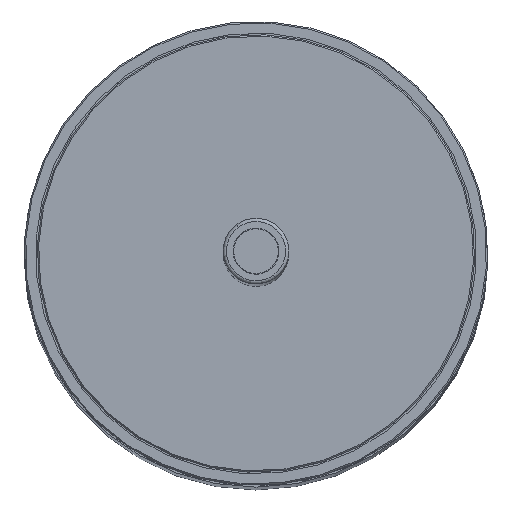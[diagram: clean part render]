
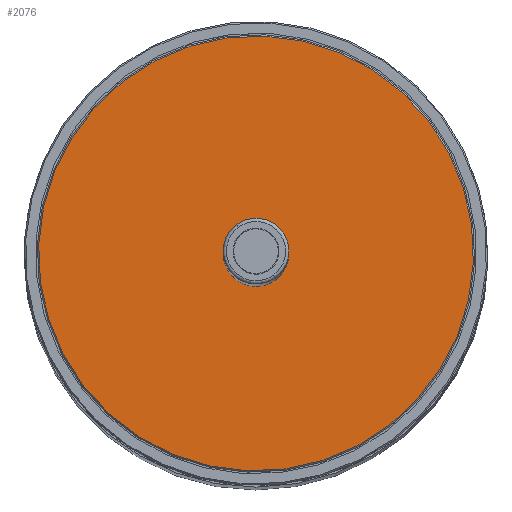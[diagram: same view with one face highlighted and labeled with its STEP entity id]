
A CAD part, top view. The second image highlights one B-rep face of the part: STEP entity #2076.
In plain terms, the highlighted planar face has unit normal (0, 0, 1) as drawn and (0, 0, -1) by its records, which use the part's own axes.
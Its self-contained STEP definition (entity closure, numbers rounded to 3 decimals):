
#52 = CARTESIAN_POINT ( 'NONE',  ( 33.05, 0., 0. ) ) ;
#81 = DIRECTION ( 'NONE',  ( 1., 0., 0. ) ) ;
#181 = PLANE ( 'NONE',  #1480 ) ;
#299 = DIRECTION ( 'NONE',  ( -1., 0., 0. ) ) ;
#303 = CARTESIAN_POINT ( 'NONE',  ( -4.05, 0., 0. ) ) ;
#485 = VERTEX_POINT ( 'NONE', #2677 ) ;
#708 = EDGE_LOOP ( 'NONE', ( #4070, #808 ) ) ;
#723 = CIRCLE ( 'NONE', #4340, 4.05 ) ;
#808 = ORIENTED_EDGE ( 'NONE', *, *, #4052, .T. ) ;
#823 = DIRECTION ( 'NONE',  ( -1., 0., 0. ) ) ;
#855 = AXIS2_PLACEMENT_3D ( 'NONE', #3145, #1132, #823 ) ;
#886 = FACE_OUTER_BOUND ( 'NONE', #708, .T. ) ;
#1054 = DIRECTION ( 'NONE',  ( 1., 0., 0. ) ) ;
#1132 = DIRECTION ( 'NONE',  ( 0., 0., -1. ) ) ;
#1429 = AXIS2_PLACEMENT_3D ( 'NONE', #4649, #3130, #1054 ) ;
#1480 = AXIS2_PLACEMENT_3D ( 'NONE', #2071, #3669, #81 ) ;
#1556 = ORIENTED_EDGE ( 'NONE', *, *, #2312, .F. ) ;
#1848 = EDGE_LOOP ( 'NONE', ( #2135, #1556 ) ) ;
#1926 = VERTEX_POINT ( 'NONE', #52 ) ;
#2071 = CARTESIAN_POINT ( 'NONE',  ( 0., 0., 0. ) ) ;
#2076 = ADVANCED_FACE ( 'NONE', ( #4076, #886 ), #181, .F. ) ;
#2135 = ORIENTED_EDGE ( 'NONE', *, *, #4713, .F. ) ;
#2243 = DIRECTION ( 'NONE',  ( 0., 0., -1. ) ) ;
#2312 = EDGE_CURVE ( 'NONE', #485, #3213, #723, .T. ) ;
#2340 = AXIS2_PLACEMENT_3D ( 'NONE', #4762, #2711, #4348 ) ;
#2413 = CARTESIAN_POINT ( 'NONE',  ( -33.05, 0., 0. ) ) ;
#2486 = VERTEX_POINT ( 'NONE', #2413 ) ;
#2615 = EDGE_CURVE ( 'NONE', #1926, #2486, #4270, .T. ) ;
#2677 = CARTESIAN_POINT ( 'NONE',  ( 4.05, 0., 0. ) ) ;
#2711 = DIRECTION ( 'NONE',  ( 0., 0., -1. ) ) ;
#3130 = DIRECTION ( 'NONE',  ( 0., 0., -1. ) ) ;
#3145 = CARTESIAN_POINT ( 'NONE',  ( 0., 0., 0. ) ) ;
#3213 = VERTEX_POINT ( 'NONE', #303 ) ;
#3669 = DIRECTION ( 'NONE',  ( 0., 0., 1. ) ) ;
#3693 = CIRCLE ( 'NONE', #1429, 33.05 ) ;
#3822 = CARTESIAN_POINT ( 'NONE',  ( 0., 0., 0. ) ) ;
#4052 = EDGE_CURVE ( 'NONE', #2486, #1926, #3693, .T. ) ;
#4070 = ORIENTED_EDGE ( 'NONE', *, *, #2615, .T. ) ;
#4076 = FACE_BOUND ( 'NONE', #1848, .T. ) ;
#4270 = CIRCLE ( 'NONE', #2340, 33.05 ) ;
#4340 = AXIS2_PLACEMENT_3D ( 'NONE', #3822, #2243, #299 ) ;
#4348 = DIRECTION ( 'NONE',  ( 1., 0., 0. ) ) ;
#4475 = CIRCLE ( 'NONE', #855, 4.05 ) ;
#4649 = CARTESIAN_POINT ( 'NONE',  ( 0., 0., 0. ) ) ;
#4713 = EDGE_CURVE ( 'NONE', #3213, #485, #4475, .T. ) ;
#4762 = CARTESIAN_POINT ( 'NONE',  ( 0., 0., 0. ) ) ;
